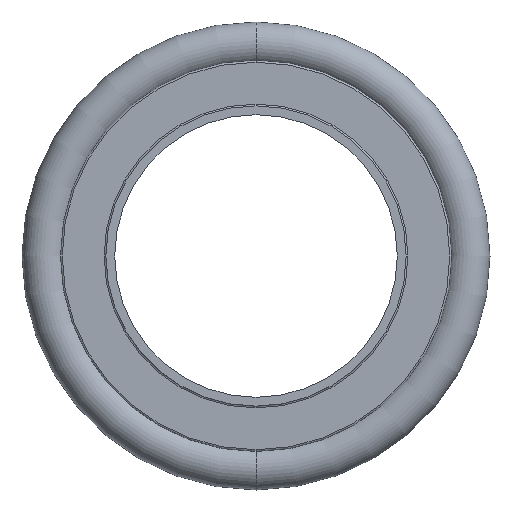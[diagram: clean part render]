
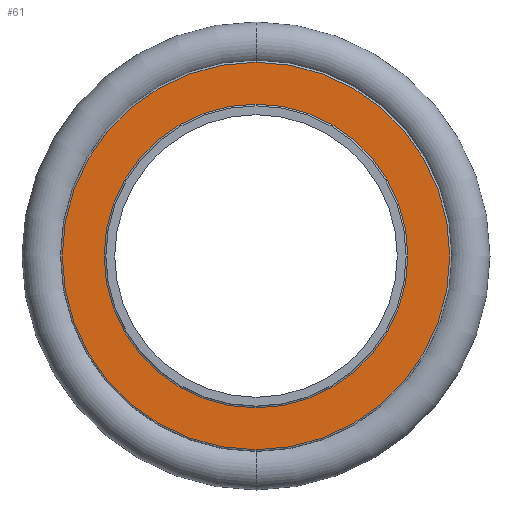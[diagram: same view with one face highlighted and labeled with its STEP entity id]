
A CAD part, front view. The second image highlights one B-rep face of the part: STEP entity #61.
In plain terms, the highlighted planar face has unit normal (0, -1, 0).
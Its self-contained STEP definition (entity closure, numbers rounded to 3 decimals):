
#47 = AXIS2_PLACEMENT_3D ( 'NONE', #555, #129, #179 ) ;
#61 = ADVANCED_FACE ( 'NONE', ( #206, #608 ), #753, .F. ) ;
#70 = AXIS2_PLACEMENT_3D ( 'NONE', #667, #90, #154 ) ;
#72 = CIRCLE ( 'NONE', #47, 21.944 ) ;
#90 = DIRECTION ( 'NONE',  ( 0., 1., 0. ) ) ;
#93 = ORIENTED_EDGE ( 'NONE', *, *, #569, .T. ) ;
#129 = DIRECTION ( 'NONE',  ( 0., -1., 0. ) ) ;
#147 = ORIENTED_EDGE ( 'NONE', *, *, #351, .T. ) ;
#150 = CARTESIAN_POINT ( 'NONE',  ( 0., -1.95, -21.944 ) ) ;
#154 = DIRECTION ( 'NONE',  ( 0., 0., 1. ) ) ;
#179 = DIRECTION ( 'NONE',  ( 0., 0., 1. ) ) ;
#184 = CIRCLE ( 'NONE', #70, 17.2 ) ;
#191 = DIRECTION ( 'NONE',  ( 0., 0., 1. ) ) ;
#206 = FACE_OUTER_BOUND ( 'NONE', #797, .T. ) ;
#237 = EDGE_CURVE ( 'NONE', #296, #558, #302, .T. ) ;
#238 = CARTESIAN_POINT ( 'NONE',  ( 0., -1.95, 17.2 ) ) ;
#248 = DIRECTION ( 'NONE',  ( 0., -1., 0. ) ) ;
#265 = AXIS2_PLACEMENT_3D ( 'NONE', #640, #248, #191 ) ;
#295 = EDGE_LOOP ( 'NONE', ( #519, #147 ) ) ;
#296 = VERTEX_POINT ( 'NONE', #150 ) ;
#302 = CIRCLE ( 'NONE', #265, 21.944 ) ;
#351 = EDGE_CURVE ( 'NONE', #400, #574, #184, .T. ) ;
#370 = AXIS2_PLACEMENT_3D ( 'NONE', #775, #576, #505 ) ;
#400 = VERTEX_POINT ( 'NONE', #411 ) ;
#411 = CARTESIAN_POINT ( 'NONE',  ( 0., -1.95, -17.2 ) ) ;
#475 = DIRECTION ( 'NONE',  ( 0., 1., 0. ) ) ;
#484 = DIRECTION ( 'NONE',  ( 0., 0., 1. ) ) ;
#505 = DIRECTION ( 'NONE',  ( 0., 0., 1. ) ) ;
#519 = ORIENTED_EDGE ( 'NONE', *, *, #631, .T. ) ;
#555 = CARTESIAN_POINT ( 'NONE',  ( 0., -1.95, 0. ) ) ;
#558 = VERTEX_POINT ( 'NONE', #757 ) ;
#569 = EDGE_CURVE ( 'NONE', #558, #296, #72, .T. ) ;
#574 = VERTEX_POINT ( 'NONE', #238 ) ;
#576 = DIRECTION ( 'NONE',  ( 0., 1., 0. ) ) ;
#578 = ORIENTED_EDGE ( 'NONE', *, *, #237, .T. ) ;
#608 = FACE_BOUND ( 'NONE', #295, .T. ) ;
#631 = EDGE_CURVE ( 'NONE', #574, #400, #661, .T. ) ;
#640 = CARTESIAN_POINT ( 'NONE',  ( 0., -1.95, 0. ) ) ;
#661 = CIRCLE ( 'NONE', #370, 17.2 ) ;
#667 = CARTESIAN_POINT ( 'NONE',  ( 0., -1.95, 0. ) ) ;
#685 = AXIS2_PLACEMENT_3D ( 'NONE', #819, #475, #484 ) ;
#753 = PLANE ( 'NONE',  #685 ) ;
#757 = CARTESIAN_POINT ( 'NONE',  ( 0., -1.95, 21.944 ) ) ;
#775 = CARTESIAN_POINT ( 'NONE',  ( 0., -1.95, 0. ) ) ;
#797 = EDGE_LOOP ( 'NONE', ( #578, #93 ) ) ;
#819 = CARTESIAN_POINT ( 'NONE',  ( -17., -1.95, 0. ) ) ;
